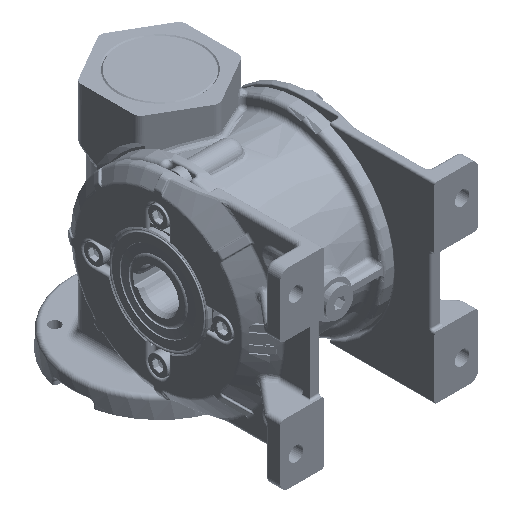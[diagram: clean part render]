
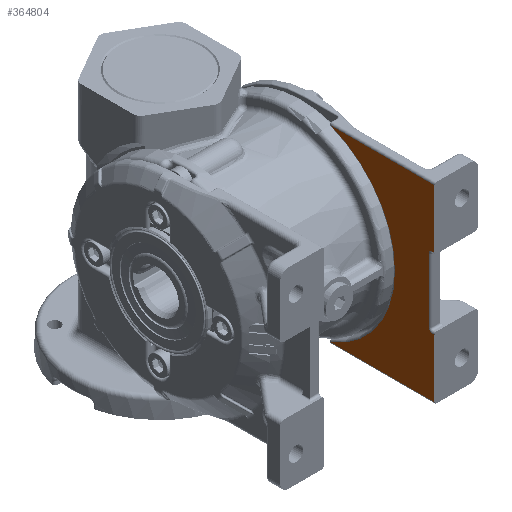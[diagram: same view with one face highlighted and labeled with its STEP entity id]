
A CAD part, isometric view. The second image highlights one B-rep face of the part: STEP entity #364804.
In plain terms, the highlighted planar face has unit normal (-1, 0, 0).
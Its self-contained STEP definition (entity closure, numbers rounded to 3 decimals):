
#364578 = EDGE_CURVE ( 'NONE', #364580, #364583, #371131, .T. ) ;
#364580 = VERTEX_POINT ( 'NONE', #371118 ) ;
#364583 = VERTEX_POINT ( 'NONE', #371114 ) ;
#364586 = ORIENTED_EDGE ( 'NONE', *, *, #364589, .T. ) ;
#364589 = EDGE_CURVE ( 'NONE', #364583, #364592, #371105, .T. ) ;
#364592 = VERTEX_POINT ( 'NONE', #371095 ) ;
#364595 = ORIENTED_EDGE ( 'NONE', *, *, #364597, .T. ) ;
#364597 = EDGE_CURVE ( 'NONE', #364592, #364754, #371085, .T. ) ;
#364713 = VERTEX_POINT ( 'NONE', #371582 ) ;
#364715 = ORIENTED_EDGE ( 'NONE', *, *, #364718, .T. ) ;
#364718 = EDGE_CURVE ( 'NONE', #364713, #364721, #371574, .T. ) ;
#364721 = VERTEX_POINT ( 'NONE', #371566 ) ;
#364724 = ORIENTED_EDGE ( 'NONE', *, *, #364726, .T. ) ;
#364726 = EDGE_CURVE ( 'NONE', #364721, #364580, #371559, .T. ) ;
#364754 = VERTEX_POINT ( 'NONE', #371718 ) ;
#364757 = ORIENTED_EDGE ( 'NONE', *, *, #364759, .T. ) ;
#364759 = EDGE_CURVE ( 'NONE', #364754, #364762, #371710, .T. ) ;
#364762 = VERTEX_POINT ( 'NONE', #371700 ) ;
#364765 = ORIENTED_EDGE ( 'NONE', *, *, #364768, .F. ) ;
#364768 = EDGE_CURVE ( 'NONE', #364771, #364762, #371689, .T. ) ;
#364771 = VERTEX_POINT ( 'NONE', #371677 ) ;
#364774 = ORIENTED_EDGE ( 'NONE', *, *, #364776, .T. ) ;
#364776 = EDGE_CURVE ( 'NONE', #364771, #364777, #371671, .T. ) ;
#364777 = VERTEX_POINT ( 'NONE', #371659 ) ;
#364779 = ORIENTED_EDGE ( 'NONE', *, *, #364782, .F. ) ;
#364782 = EDGE_CURVE ( 'NONE', #364786, #364777, #371884, .T. ) ;
#364786 = VERTEX_POINT ( 'NONE', #371871 ) ;
#364788 = ORIENTED_EDGE ( 'NONE', *, *, #364790, .T. ) ;
#364790 = EDGE_CURVE ( 'NONE', #364786, #364713, #371864, .T. ) ;
#364804 = ADVANCED_FACE ( 'NONE', ( #371827 ), #371820, .F. ) ;
#364808 = EDGE_LOOP ( 'NONE', ( #364810, #364586, #364595, #364757, #364765, #364774, #364779, #364788, #364715, #364724 ) ) ;
#364810 = ORIENTED_EDGE ( 'NONE', *, *, #364578, .T. ) ;
#371079 = DIRECTION ( 'NONE',  ( 0., 0., 1. ) ) ;
#371082 = VECTOR ( 'NONE', #371079, 1000. ) ;
#371084 = CARTESIAN_POINT ( 'NONE',  ( 28., -111., -17. ) ) ;
#371085 = LINE ( 'NONE', #371084, #371082 ) ;
#371095 = CARTESIAN_POINT ( 'NONE',  ( 28., -111., -47.5 ) ) ;
#371099 = DIRECTION ( 'NONE',  ( 0., -1., 0. ) ) ;
#371100 = VECTOR ( 'NONE', #371099, 1000. ) ;
#371103 = CARTESIAN_POINT ( 'NONE',  ( 28., -111., -47.5 ) ) ;
#371105 = LINE ( 'NONE', #371103, #371100 ) ;
#371114 = CARTESIAN_POINT ( 'NONE',  ( 28., -58.567, -47.5 ) ) ;
#371118 = CARTESIAN_POINT ( 'NONE',  ( 28., -58.567, 47.5 ) ) ;
#371120 = DIRECTION ( 'NONE',  ( 0., 0., -1. ) ) ;
#371123 = DIRECTION ( 'NONE',  ( 1., 0., 0. ) ) ;
#371126 = CARTESIAN_POINT ( 'NONE',  ( 28., -40., 0. ) ) ;
#371128 = AXIS2_PLACEMENT_3D ( 'NONE', #371126, #371123, #371120 ) ;
#371131 = CIRCLE ( 'NONE', #371128, 51. ) ;
#371553 = DIRECTION ( 'NONE',  ( 0., 1., 0. ) ) ;
#371554 = VECTOR ( 'NONE', #371553, 1000. ) ;
#371556 = CARTESIAN_POINT ( 'NONE',  ( 28., -58.567, 47.5 ) ) ;
#371559 = LINE ( 'NONE', #371556, #371554 ) ;
#371566 = CARTESIAN_POINT ( 'NONE',  ( 28., -111., 47.5 ) ) ;
#371568 = DIRECTION ( 'NONE',  ( 0., 0., 1. ) ) ;
#371570 = VECTOR ( 'NONE', #371568, 1000. ) ;
#371573 = CARTESIAN_POINT ( 'NONE',  ( 28., -111., 17. ) ) ;
#371574 = LINE ( 'NONE', #371573, #371570 ) ;
#371582 = CARTESIAN_POINT ( 'NONE',  ( 28., -111., 18. ) ) ;
#371659 = CARTESIAN_POINT ( 'NONE',  ( 28., -108., 16. ) ) ;
#371663 = DIRECTION ( 'NONE',  ( 0., 0., 1. ) ) ;
#371666 = VECTOR ( 'NONE', #371663, 1000. ) ;
#371669 = CARTESIAN_POINT ( 'NONE',  ( 28., -108., 17. ) ) ;
#371671 = LINE ( 'NONE', #371669, #371666 ) ;
#371677 = CARTESIAN_POINT ( 'NONE',  ( 28., -108., -16. ) ) ;
#371680 = DIRECTION ( 'NONE',  ( 0., 0., -1. ) ) ;
#371683 = DIRECTION ( 'NONE',  ( -1., 0., 0. ) ) ;
#371685 = CARTESIAN_POINT ( 'NONE',  ( 28., -110., -16. ) ) ;
#371686 = AXIS2_PLACEMENT_3D ( 'NONE', #371685, #371683, #371680 ) ;
#371689 = CIRCLE ( 'NONE', #371686, 2. ) ;
#371700 = CARTESIAN_POINT ( 'NONE',  ( 28., -110., -18. ) ) ;
#371703 = DIRECTION ( 'NONE',  ( 0., 1., 0. ) ) ;
#371706 = VECTOR ( 'NONE', #371703, 1000. ) ;
#371709 = CARTESIAN_POINT ( 'NONE',  ( 28., -109., -18. ) ) ;
#371710 = LINE ( 'NONE', #371709, #371706 ) ;
#371718 = CARTESIAN_POINT ( 'NONE',  ( 28., -111., -18. ) ) ;
#371811 = DIRECTION ( 'NONE',  ( 0., 0., -1. ) ) ;
#371813 = DIRECTION ( 'NONE',  ( 1., 0., 0. ) ) ;
#371815 = CARTESIAN_POINT ( 'NONE',  ( 28., 4., 0. ) ) ;
#371817 = AXIS2_PLACEMENT_3D ( 'NONE', #371815, #371813, #371811 ) ;
#371820 = PLANE ( 'NONE',  #371817 ) ;
#371827 = FACE_OUTER_BOUND ( 'NONE', #364808, .T. ) ;
#371857 = DIRECTION ( 'NONE',  ( 0., -1., 0. ) ) ;
#371859 = VECTOR ( 'NONE', #371857, 1000. ) ;
#371862 = CARTESIAN_POINT ( 'NONE',  ( 28., -111., 18. ) ) ;
#371864 = LINE ( 'NONE', #371862, #371859 ) ;
#371871 = CARTESIAN_POINT ( 'NONE',  ( 28., -110., 18. ) ) ;
#371874 = DIRECTION ( 'NONE',  ( 0., 0., -1. ) ) ;
#371877 = DIRECTION ( 'NONE',  ( -1., 0., 0. ) ) ;
#371879 = CARTESIAN_POINT ( 'NONE',  ( 28., -110., 16. ) ) ;
#371881 = AXIS2_PLACEMENT_3D ( 'NONE', #371879, #371877, #371874 ) ;
#371884 = CIRCLE ( 'NONE', #371881, 2. ) ;
